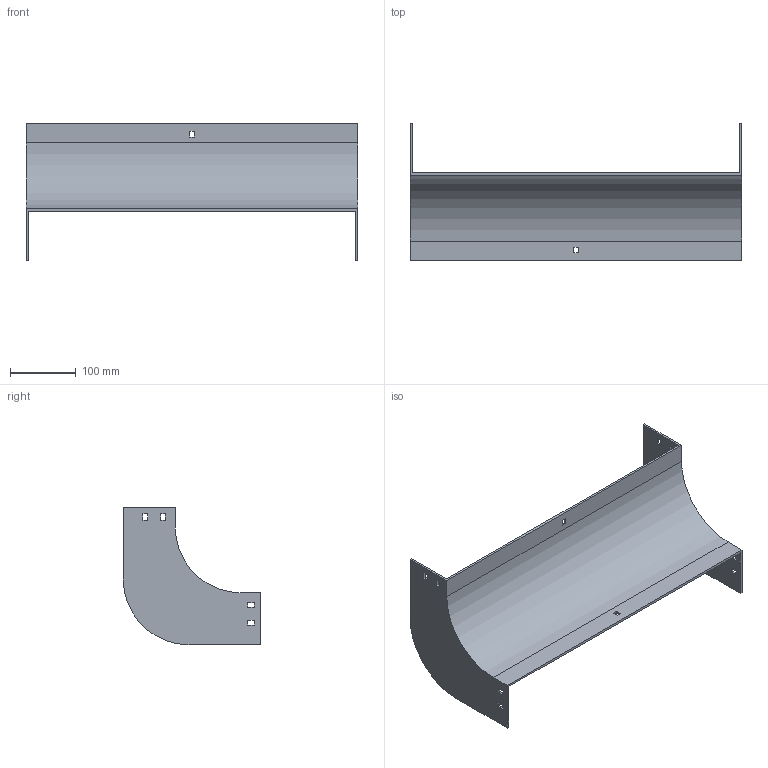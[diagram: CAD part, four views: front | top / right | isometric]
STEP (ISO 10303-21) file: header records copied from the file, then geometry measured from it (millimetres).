
FILE_DESCRIPTION (( 'STEP AP214' ), '1' );
FILE_NAME ('33F1C500.step', '2025-02-21T12:53:18', ( '' ), ( '' ), 'SwSTEP 2.0', 'SolidWorks 2023', '' );
FILE_SCHEMA (( 'AUTOMOTIVE_DESIGN' ));
Length unit declared in the file: millimetre
Products named in the file (1): 33F1C500
Bounding box: 504 x 209 x 209 mm (x, y, z)
Volume: 567489.2 mm3; surface area: 332639.9 mm2
Topology: 1 solids, 1 shells, 58 faces, 168 edges, 112 vertices
Faces by surface type: plane 54, cylinder 4
Entity records: 1943 total; most frequent: CARTESIAN_POINT 339, ORIENTED_EDGE 336, DIRECTION 294, EDGE_CURVE 168, LINE 160, VECTOR 160, VERTEX_POINT 112, EDGE_LOOP 78
